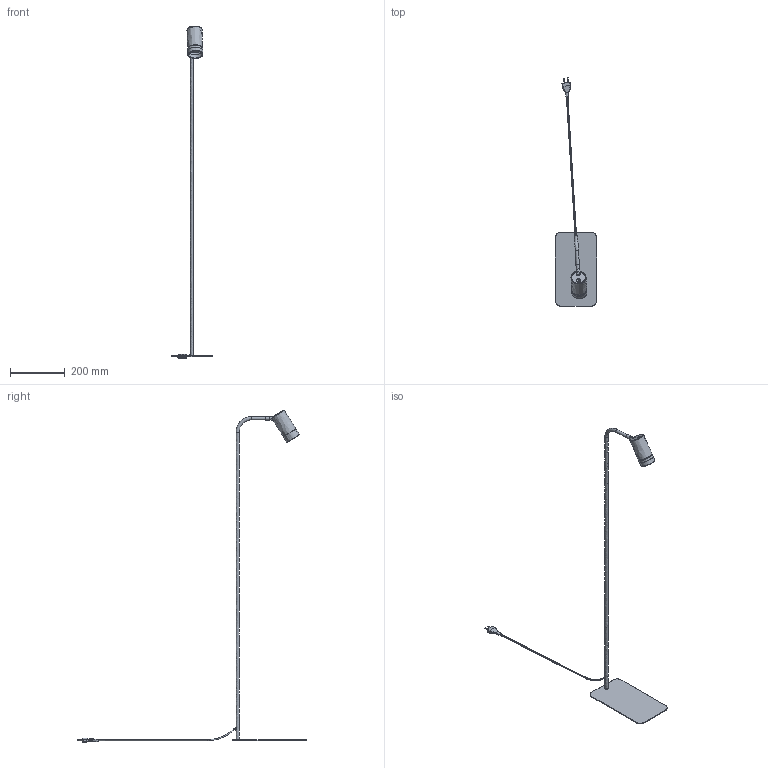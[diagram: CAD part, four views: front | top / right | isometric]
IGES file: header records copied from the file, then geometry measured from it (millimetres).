
Start section: SolidWorks IGES file using NURBS representation for surfaces
Global section: file name: 4HZ:\Modele 3D_WWW\_KOLEKCJE_WWW\MONO\MONO-PODΜGA\7714\MONO-I-GOLD-7714.IGS; native system: SolidWorks 2021; preprocessor: SolidWorks 2021; author: gabriela.tworek; date: 220126.104605; units: millimetre
Bounding box: 150 x 833.77 x 1212.42 mm (x, y, z)
Surface area: 197988.6 mm2 (no closed solid volume)
Topology: 0 solids, 0 shells, 125 faces, 639 edges, 616 vertices
Faces by surface type: bspline 125
